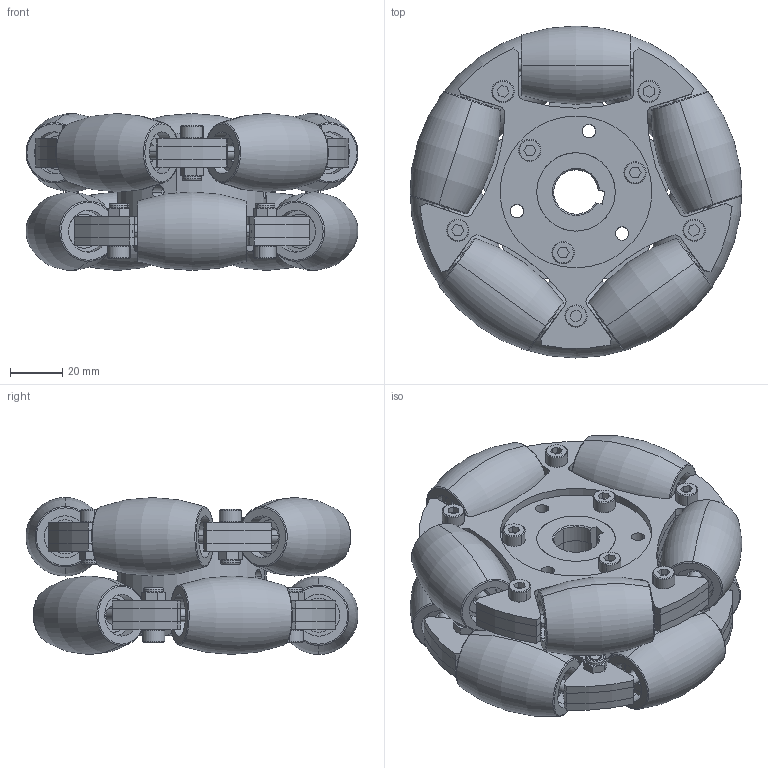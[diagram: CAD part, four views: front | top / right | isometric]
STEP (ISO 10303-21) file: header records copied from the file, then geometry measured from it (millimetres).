
FILE_DESCRIPTION (( 'STEP AP203' ), '1' );
FILE_NAME ('14153.STEP', '2026-07-15T02:36:32', ( '' ), ( '' ), 'SwSTEP 2.0', 'SolidWorks 2024', '' );
FILE_SCHEMA (( 'CONFIG_CONTROL_DESIGN' ));
Length unit declared in the file: millimetre
Products named in the file (14): 14153; 5______-______(B__).STEP; Prevailing torque hex nuts2 class 9 GB_GB_HEXAGON_LOCK_TYPE5 M5-N.STEP; 5______-____________(B__).STEP; 14153.STEP; 5______-______________(B__).STEP; __________(M5X40).STEP; ________M5.STEP; 5______-__________(B__).STEP; 5______-__________(B__)-0.STEP; ______5.STEP; 5______-______-__(B__).STEP; 5______-______________(B__)-1.STEP; __________(M5X16).STEP
Assembly tree (32 placements, depth 5):
  14153
    14153.STEP
      5______-______________(B__).STEP  x2
        5______-______________(B__)-1.STEP
          5______-______(B__).STEP
          ______5.STEP  x2
          5______-______-__(B__).STEP
        5______-____________(B__).STEP
        5______-__________(B__).STEP
        __________(M5X16).STEP
        ________M5.STEP
      5______-__________(B__)-0.STEP
      __________(M5X40).STEP  x3
      Prevailing torque hex nuts2 class 9 GB_GB_HEXAGON_LOCK_TYPE5 M5-N.STEP  x3
Bounding box: 126.98 x 126.93 x 60 mm (x, y, z)
Volume: 381523.6 mm3; surface area: 155015.2 mm2
Topology: 73 solids, 73 shells, 1421 faces, 3334 edges, 2127 vertices
Faces by surface type: plane 575, cylinder 561, cone 205, torus 80
Entity records: 13119 total; most frequent: CARTESIAN_POINT 2470, DIRECTION 1917, ORIENTED_EDGE 1732, EDGE_CURVE 866, AXIS2_PLACEMENT_3D 716, VERTEX_POINT 559, LINE 485, VECTOR 485
